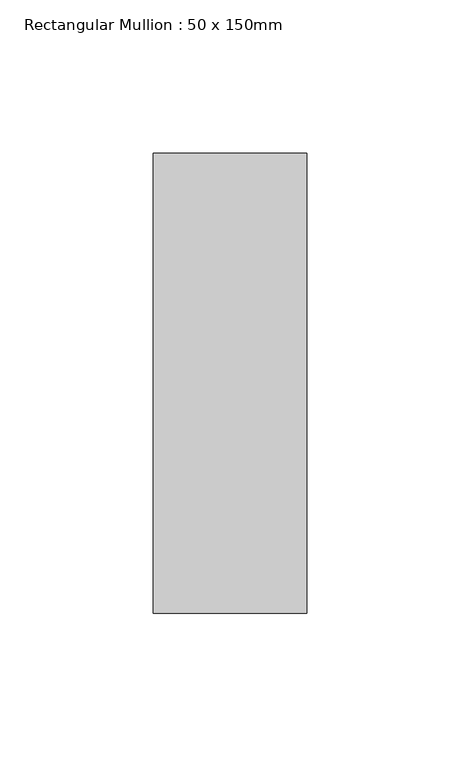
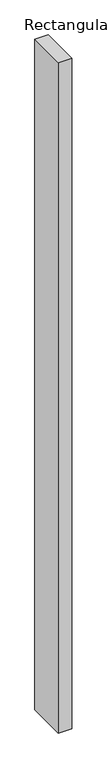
"""IFC4 building model written with IfcOpenShell, lengths in millimetres: member geometry, Rectangular Mullion : 50 x 150mm."""

from ifc_helpers import new_model, si_unit, frame, origin, place, context, project, spatial, polyline, outline, extrude, source, transform, mapped, element, save


def rectangular_mullion_50_x_150mm_de4636ea(model_context):
    return source(origin(), model_context, "Body", "SweptSolid", [
        extrude(outline(polyline([(0.0, 75.0), (0.0, -75.0), (-50.0, -75.0), (-50.0, 75.0), (0.0, 75.0)])), frame((0.0, 0.0, -2625.0), z_axis=(0.0, 0.0, 1.0), x_axis=(1.0, 0.0, 0.0)), (0.0, 0.0, 1.0), 2625.0),
    ])


if __name__ == "__main__":
    model = new_model("IFC4")
    model_context = context("Model", 3, world=origin())
    ifc_project = project(units=[si_unit("LENGTHUNIT", "METRE", prefix="MILLI")], contexts=[model_context])
    site = spatial("IfcSite", under=ifc_project)
    building = spatial("IfcBuilding", under=site)
    placement = place(None, origin())
    rectangular_mullion_50_x_150mm_shape = rectangular_mullion_50_x_150mm_de4636ea(model_context)
    element("IfcMember", 1, ObjectType="Rectangular Mullion : 50 x 150mm", at=placement, inside=building, context=model_context, shape_type="MappedRepresentation", body=[
        mapped(rectangular_mullion_50_x_150mm_shape, transform((0.0, 0.0, 0.0), x_axis=(1.0, 0.0, 0.0), y_axis=(0.0, 1.0, 0.0), z_axis=(0.0, 0.0, 1.0))),
    ])
    save(model, "model.ifc")
